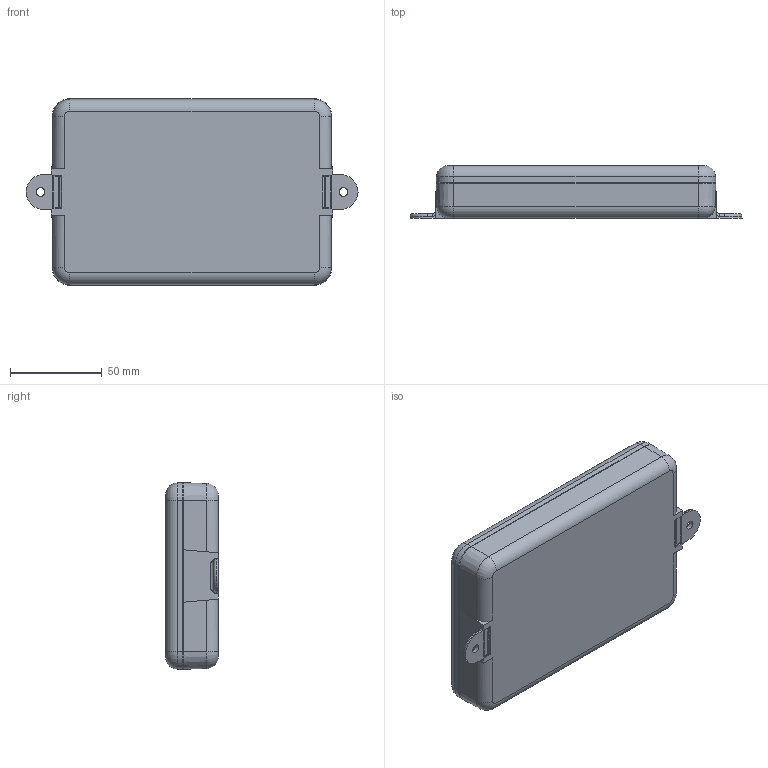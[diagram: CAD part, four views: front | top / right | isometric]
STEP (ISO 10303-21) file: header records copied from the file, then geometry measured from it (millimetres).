
FILE_DESCRIPTION (( 'STEP AP214' ), '1' );
FILE_NAME ('SL-64FMBR.STEP', '2023-12-20T17:10:30', ( '' ), ( '' ), 'SwSTEP 2.0', 'SolidWorks 2023', '' );
FILE_SCHEMA (( 'AUTOMOTIVE_DESIGN' ));
Length unit declared in the file: inch
Products named in the file (4): SL-64FMBR; SCREWS-HL5-8-BR_default; SL-64B_SL-64BFMB; SL-64C_SL-64C-R
Assembly tree (6 placements, depth 2):
  SL-64FMBR
    SL-64B_SL-64BFMB
    SL-64C_SL-64C-R
    SCREWS-HL5-8-BR_default  x4
Bounding box: 181.14 x 28.7 x 101.7 mm (x, y, z)
Volume: 97896.6 mm3; surface area: 89318.3 mm2
Topology: 6 solids, 6 shells, 540 faces, 1346 edges, 841 vertices
Faces by surface type: plane 176, cylinder 112, bspline 112, cone 86, torus 50, sphere 4
Full cylindrical faces by diameter (mm): 1.651 x44
Entity records: 14537 total; most frequent: CARTESIAN_POINT 6221, ORIENTED_EDGE 1736, DIRECTION 1616, EDGE_CURVE 868, AXIS2_PLACEMENT_3D 673, VERTEX_POINT 548, EDGE_LOOP 470, FACE_OUTER_BOUND 398
